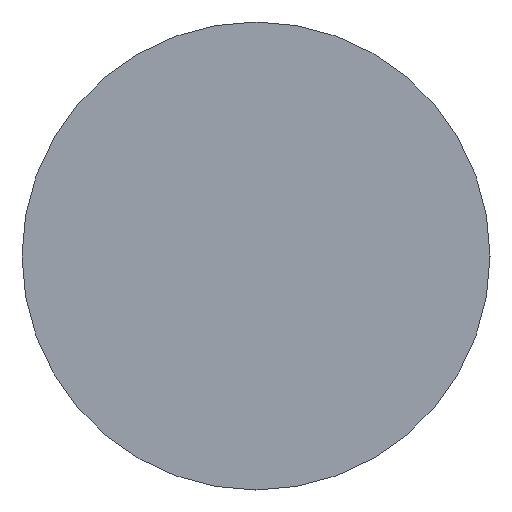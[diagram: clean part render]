
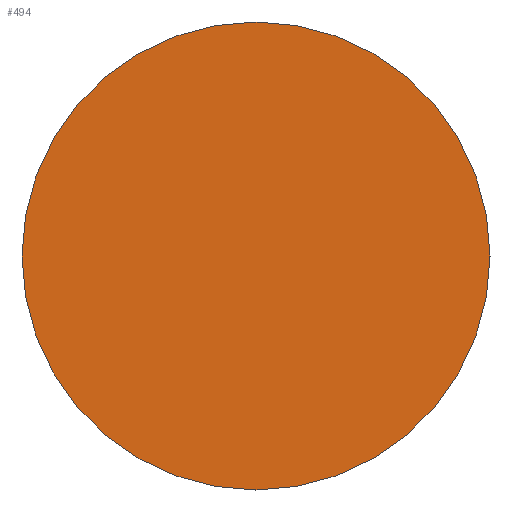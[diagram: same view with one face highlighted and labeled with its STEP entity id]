
A CAD part, left-side view. The second image highlights one B-rep face of the part: STEP entity #494.
In plain terms, the highlighted planar face has unit normal (-1, 0, 0).
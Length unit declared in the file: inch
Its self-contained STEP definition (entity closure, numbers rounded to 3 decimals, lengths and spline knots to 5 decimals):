
#2 = DIRECTION ( 'NONE',  ( 1., 0., 0. ) ) ;
#43 = FACE_OUTER_BOUND ( 'NONE', #121, .T. ) ;
#84 = VERTEX_POINT ( 'NONE', #505 ) ;
#91 = CARTESIAN_POINT ( 'NONE',  ( -6., 0., 0. ) ) ;
#96 = CIRCLE ( 'NONE', #388, 0.5 ) ;
#121 = EDGE_LOOP ( 'NONE', ( #320, #376 ) ) ;
#130 = EDGE_CURVE ( 'NONE', #84, #237, #96, .T. ) ;
#133 = DIRECTION ( 'NONE',  ( -1., 0., 0. ) ) ;
#204 = AXIS2_PLACEMENT_3D ( 'NONE', #272, #2, #238 ) ;
#237 = VERTEX_POINT ( 'NONE', #291 ) ;
#238 = DIRECTION ( 'NONE',  ( 0., 0., -1. ) ) ;
#249 = EDGE_CURVE ( 'NONE', #237, #84, #368, .T. ) ;
#271 = DIRECTION ( 'NONE',  ( 0., 0., 1. ) ) ;
#272 = CARTESIAN_POINT ( 'NONE',  ( -6., 0.5, 0. ) ) ;
#273 = PLANE ( 'NONE',  #204 ) ;
#291 = CARTESIAN_POINT ( 'NONE',  ( -6., 0., -0.5 ) ) ;
#320 = ORIENTED_EDGE ( 'NONE', *, *, #130, .T. ) ;
#368 = CIRCLE ( 'NONE', #456, 0.5 ) ;
#376 = ORIENTED_EDGE ( 'NONE', *, *, #249, .T. ) ;
#388 = AXIS2_PLACEMENT_3D ( 'NONE', #418, #465, #271 ) ;
#418 = CARTESIAN_POINT ( 'NONE',  ( -6., 0., 0. ) ) ;
#449 = DIRECTION ( 'NONE',  ( 0., 0., 1. ) ) ;
#456 = AXIS2_PLACEMENT_3D ( 'NONE', #91, #133, #449 ) ;
#465 = DIRECTION ( 'NONE',  ( -1., 0., 0. ) ) ;
#494 = ADVANCED_FACE ( 'NONE', ( #43 ), #273, .F. ) ;
#505 = CARTESIAN_POINT ( 'NONE',  ( -6., 0., 0.5 ) ) ;
